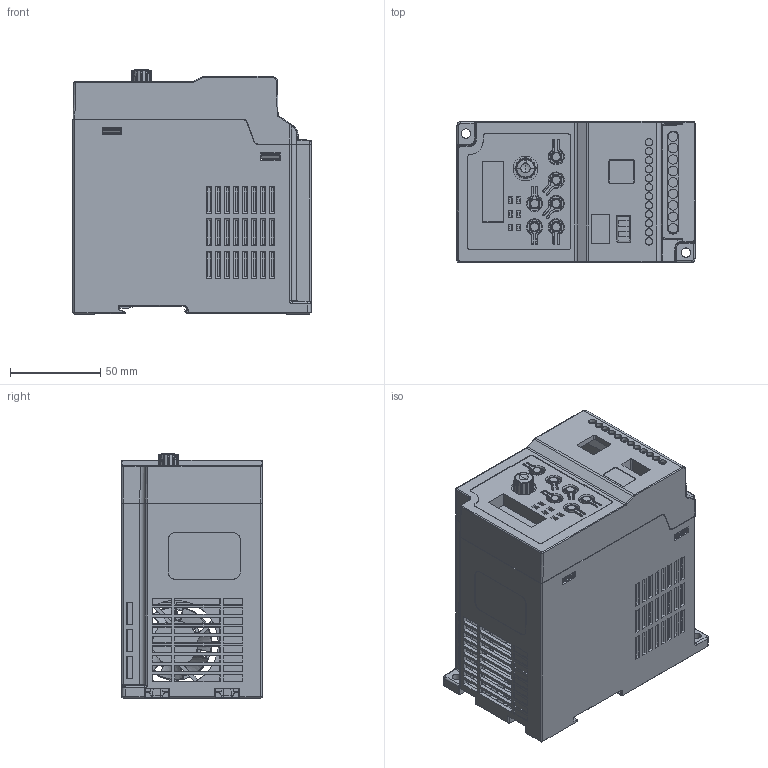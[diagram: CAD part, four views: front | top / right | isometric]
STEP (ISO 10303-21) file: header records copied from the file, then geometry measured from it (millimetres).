
FILE_DESCRIPTION((''),'2;1');
FILE_NAME('EX-4T-C_ASM_126_ASM','2024-09-11T10:02:58',('HuangFD'),(''),'CREO PARAMETRIC BY PTC INC, 2019010','CREO PARAMETRIC BY PTC INC, 2019010','');
FILE_SCHEMA(('CONFIG_CONTROL_DESIGN','GEOMETRIC_VALIDATION_PROPERTIES_MIM'));
Products named in the file (15): XIAKE-C-0830_32; SHANGKE-C_190; 63500_9; 50X50X1500_8; ELCBPCB-0605_11_1; ELCBPCB-0605_11_2; ELCBPCB-0605_11_3; ELCBPCB-0605_11_4; ELCBPCB-0605_11_5; ELCBPCB-0605_11_6; ELCBPCB-0605_11_ASM; XUANNIU-20210318_5; PCB-MOZU-0523_ASM_151_ASM; FENGSANJIA-A_171; EX-4T-C_ASM_126_ASM
Assembly tree (14 placements, depth 4):
  EX-4T-C_ASM_126_ASM
    XIAKE-C-0830_32
    SHANGKE-C_190
    PCB-MOZU-0523_ASM_151_ASM
      63500_9
      50X50X1500_8
      ELCBPCB-0605_11_ASM
        ELCBPCB-0605_11_1
        ELCBPCB-0605_11_2
        ELCBPCB-0605_11_3
        ELCBPCB-0605_11_4
        ELCBPCB-0605_11_5
        ELCBPCB-0605_11_6
      XUANNIU-20210318_5
    FENGSANJIA-A_171
Bounding box: 132 x 78 x 135.7 mm (x, y, z)
Volume: 194818.8 mm3; surface area: 196903 mm2
Topology: 13 solids, 13 shells, 4470 faces, 12156 edges, 7950 vertices
Faces by surface type: plane 2831, cylinder 828, extrusion 330, cone 201, torus 126, bspline 90, sphere 59, revolution 5
Entity records: 187828 total; most frequent: CARTESIAN_POINT 39213, ORIENTED_EDGE 24194, DIRECTION 20321, EDGE_CURVE 12097, PRESENTATION_STYLE_ASSIGNMENT 10958, STYLED_ITEM 10958, CURVE_STYLE 10256, VECTOR 8712
